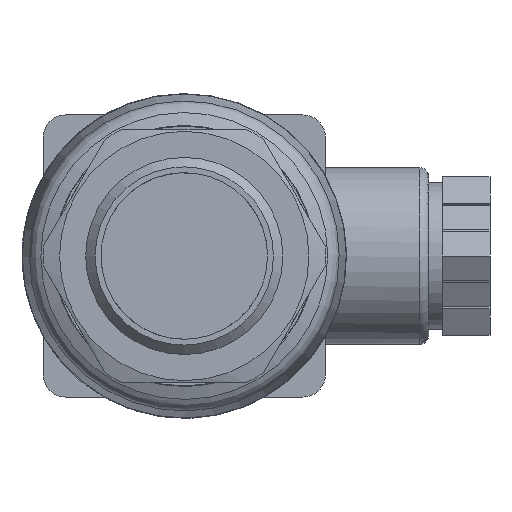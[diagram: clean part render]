
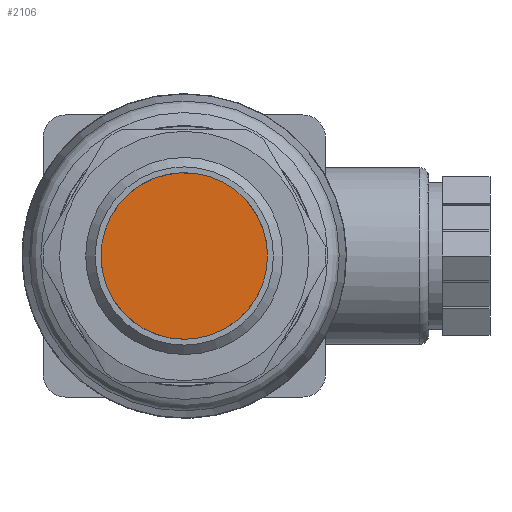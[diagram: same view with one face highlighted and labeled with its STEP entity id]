
A CAD part, left-side view. The second image highlights one B-rep face of the part: STEP entity #2106.
In plain terms, the highlighted planar face has unit normal (-1, 0, 0).
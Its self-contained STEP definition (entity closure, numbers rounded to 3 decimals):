
#252=FACE_OUTER_BOUND('',#419,.T.);
#419=EDGE_LOOP('',(#1716));
#534=CIRCLE('',#2320,8.85);
#999=VERTEX_POINT('',#3451);
#1247=EDGE_CURVE('',#999,#999,#534,.T.);
#1716=ORIENTED_EDGE('',*,*,#1247,.T.);
#1867=PLANE('',#2319);
#2106=ADVANCED_FACE('',(#252),#1867,.T.);
#2319=AXIS2_PLACEMENT_3D('',#3450,#2864,#2865);
#2320=AXIS2_PLACEMENT_3D('',#3452,#2866,#2867);
#2864=DIRECTION('center_axis',(-1.,0.,0.));
#2865=DIRECTION('ref_axis',(0.,-0.889,-0.458));
#2866=DIRECTION('center_axis',(-1.,0.,0.));
#2867=DIRECTION('ref_axis',(0.,-0.458,0.889));
#3450=CARTESIAN_POINT('Origin',(-61.83,-3.921,7.615));
#3451=CARTESIAN_POINT('',(-61.83,-4.052,7.868));
#3452=CARTESIAN_POINT('Origin',(-61.83,0.,
0.));
